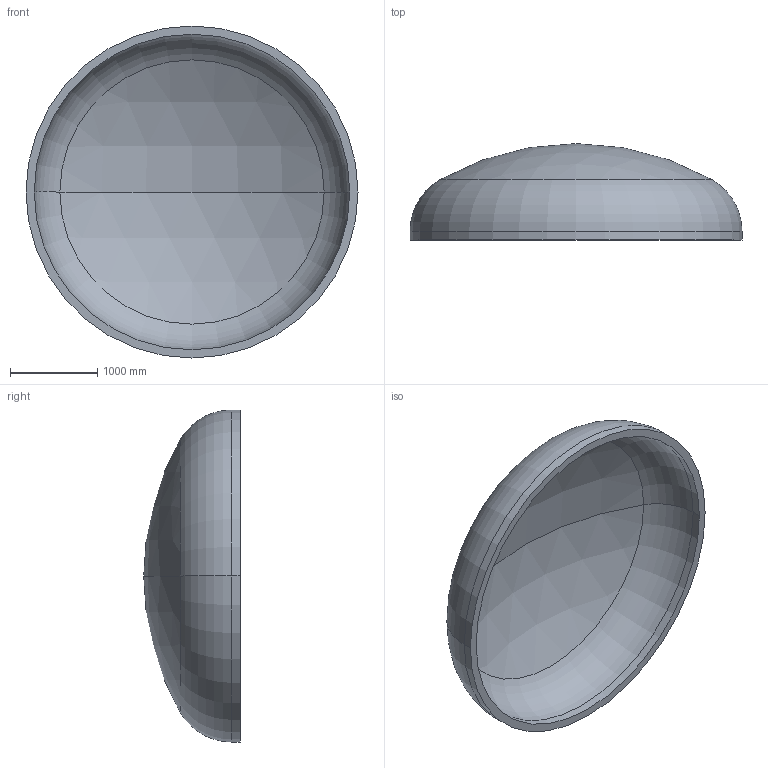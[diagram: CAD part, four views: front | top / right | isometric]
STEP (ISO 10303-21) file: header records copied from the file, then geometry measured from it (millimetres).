
FILE_DESCRIPTION (( 'STEP AP203' ), '1' );
FILE_NAME ('DIN 28013 Korbbogenform_-_Boden DIN 28013 - 3800 x 100 - I - s=94.step', '2016-07-01T21:45:59', ( '' ), ( '' ), 'SwSTEP 2.0', 'SolidWorks 2013', '' );
FILE_SCHEMA (( 'CONFIG_CONTROL_DESIGN' ));
Length unit declared in the file: millimetre
Products named in the file (1): DIN 28013 Korbbogenform_-_Boden DIN 28013 - 3800 x 100 - I - s=94
Bounding box: 3800 x 1104.17 x 3800 mm (x, y, z)
Volume: 1538687298.5 mm3; surface area: 33850940.2 mm2
Topology: 1 solids, 1 shells, 13 faces, 24 edges, 14 vertices
Faces by surface type: torus 4, cylinder 4, sphere 4, plane 1
Entity records: 407 total; most frequent: DIRECTION 72, CARTESIAN_POINT 52, ORIENTED_EDGE 48, AXIS2_PLACEMENT_3D 34, EDGE_CURVE 24, CIRCLE 20, EDGE_LOOP 14, VERTEX_POINT 14
